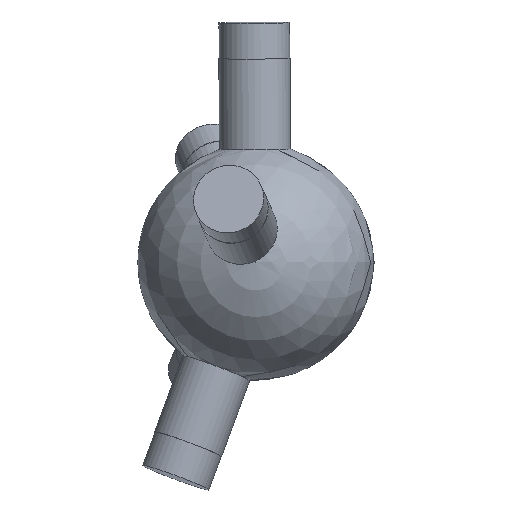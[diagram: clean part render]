
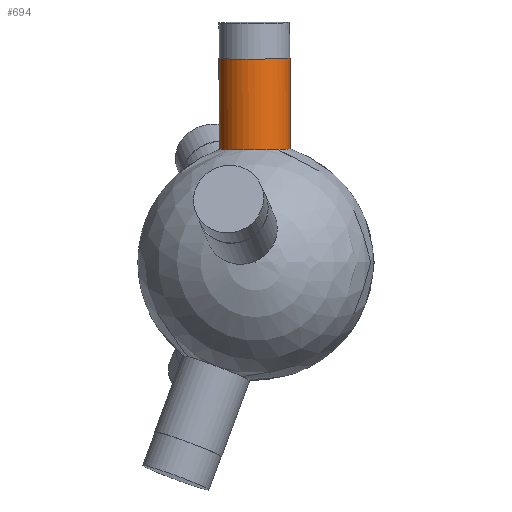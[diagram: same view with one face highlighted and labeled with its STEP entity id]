
A CAD part, top view. The second image highlights one B-rep face of the part: STEP entity #694.
In plain terms, the highlighted cylindrical face has radius 6 mm (diameter 12 mm), a full revolution.
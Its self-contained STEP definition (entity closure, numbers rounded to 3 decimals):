
#35 = SPHERICAL_SURFACE('',#36,20.);
#36 = AXIS2_PLACEMENT_3D('',#37,#38,#39);
#37 = CARTESIAN_POINT('',(0.,0.,0.));
#38 = DIRECTION('',(0.,0.,1.));
#39 = DIRECTION('',(1.,0.,-0.));
#144 = EDGE_CURVE('',#145,#145,#147,.T.);
#145 = VERTEX_POINT('',#146);
#146 = CARTESIAN_POINT('',(-0.111,18.939,
    6.427));
#147 = SURFACE_CURVE('',#148,(#153,#208),.PCURVE_S1.);
#148 = CIRCLE('',#149,6.);
#149 = AXIS2_PLACEMENT_3D('',#150,#151,#152);
#150 = CARTESIAN_POINT('',(-0.111,19.074,
    0.428));
#151 = DIRECTION('',(-0.006,1.,
    0.022));
#152 = DIRECTION('',(0.,-0.022,
    1.));
#153 = PCURVE('',#35,#154);
#154 = DEFINITIONAL_REPRESENTATION('',(#155),#207);
#155 = B_SPLINE_CURVE_WITH_KNOTS('',8,(#156,#157,#158,#159,#160,#161,
    #162,#163,#164,#165,#166,#167,#168,#169,#170,#171,#172,#173,#174,
    #175,#176,#177,#178,#179,#180,#181,#182,#183,#184,#185,#186,#187,
    #188,#189,#190,#191,#192,#193,#194,#195,#196,#197,#198,#199,#200,
    #201,#202,#203,#204,#205,#206),.UNSPECIFIED.,.F.,.F.,(9,7,7,7,7,7,7,
    9),(0.,0.785,1.473,2.675,3.577,
    4.254,5.268,6.283),.UNSPECIFIED.);
#156 = CARTESIAN_POINT('',(1.577,0.327));
#157 = CARTESIAN_POINT('',(1.546,0.327));
#158 = CARTESIAN_POINT('',(1.514,0.324));
#159 = CARTESIAN_POINT('',(1.484,0.317));
#160 = CARTESIAN_POINT('',(1.454,0.306));
#161 = CARTESIAN_POINT('',(1.427,0.293));
#162 = CARTESIAN_POINT('',(1.401,0.276));
#163 = CARTESIAN_POINT('',(1.378,0.257));
#164 = CARTESIAN_POINT('',(1.339,0.217));
#165 = CARTESIAN_POINT('',(1.322,0.196));
#166 = CARTESIAN_POINT('',(1.308,0.174));
#167 = CARTESIAN_POINT('',(1.296,0.151));
#168 = CARTESIAN_POINT('',(1.287,0.127));
#169 = CARTESIAN_POINT('',(1.28,0.102));
#170 = CARTESIAN_POINT('',(1.275,0.077));
#171 = CARTESIAN_POINT('',(1.269,0.006));
#172 = CARTESIAN_POINT('',(1.273,-0.04));
#173 = CARTESIAN_POINT('',(1.283,-0.084));
#174 = CARTESIAN_POINT('',(1.302,-0.127));
#175 = CARTESIAN_POINT('',(1.327,-0.166));
#176 = CARTESIAN_POINT('',(1.359,-0.2));
#177 = CARTESIAN_POINT('',(1.396,-0.228));
#178 = CARTESIAN_POINT('',(1.468,-0.265));
#179 = CARTESIAN_POINT('',(1.501,-0.276));
#180 = CARTESIAN_POINT('',(1.536,-0.284));
#181 = CARTESIAN_POINT('',(1.572,-0.287));
#182 = CARTESIAN_POINT('',(1.608,-0.285));
#183 = CARTESIAN_POINT('',(1.643,-0.279));
#184 = CARTESIAN_POINT('',(1.676,-0.268));
#185 = CARTESIAN_POINT('',(1.731,-0.242));
#186 = CARTESIAN_POINT('',(1.754,-0.229));
#187 = CARTESIAN_POINT('',(1.775,-0.213));
#188 = CARTESIAN_POINT('',(1.794,-0.196));
#189 = CARTESIAN_POINT('',(1.811,-0.177));
#190 = CARTESIAN_POINT('',(1.826,-0.156));
#191 = CARTESIAN_POINT('',(1.84,-0.135));
#192 = CARTESIAN_POINT('',(1.867,-0.077));
#193 = CARTESIAN_POINT('',(1.879,-0.041));
#194 = CARTESIAN_POINT('',(1.885,-0.003));
#195 = CARTESIAN_POINT('',(1.886,0.036));
#196 = CARTESIAN_POINT('',(1.882,0.075));
#197 = CARTESIAN_POINT('',(1.873,0.112));
#198 = CARTESIAN_POINT('',(1.858,0.148));
#199 = CARTESIAN_POINT('',(1.819,0.214));
#200 = CARTESIAN_POINT('',(1.795,0.244));
#201 = CARTESIAN_POINT('',(1.766,0.27));
#202 = CARTESIAN_POINT('',(1.733,0.292));
#203 = CARTESIAN_POINT('',(1.696,0.31));
#204 = CARTESIAN_POINT('',(1.657,0.321));
#205 = CARTESIAN_POINT('',(1.617,0.327));
#206 = CARTESIAN_POINT('',(1.577,0.327));
#207 = ( GEOMETRIC_REPRESENTATION_CONTEXT(2) 
PARAMETRIC_REPRESENTATION_CONTEXT() REPRESENTATION_CONTEXT('2D SPACE',''
  ) );
#208 = PCURVE('',#209,#214);
#209 = CYLINDRICAL_SURFACE('',#210,6.);
#210 = AXIS2_PLACEMENT_3D('',#211,#212,#213);
#211 = CARTESIAN_POINT('',(0.,0.,0.));
#212 = DIRECTION('',(-0.006,1.,
    0.022));
#213 = DIRECTION('',(0.,-0.022,
    1.));
#214 = DEFINITIONAL_REPRESENTATION('',(#215),#219);
#215 = LINE('',#216,#217);
#216 = CARTESIAN_POINT('',(0.,19.079));
#217 = VECTOR('',#218,1.);
#218 = DIRECTION('',(1.,0.));
#219 = ( GEOMETRIC_REPRESENTATION_CONTEXT(2) 
PARAMETRIC_REPRESENTATION_CONTEXT() REPRESENTATION_CONTEXT('2D SPACE',''
  ) );
#694 = ADVANCED_FACE('',(#695),#209,.T.);
#695 = FACE_BOUND('',#696,.T.);
#696 = EDGE_LOOP('',(#697,#720,#747,#748));
#697 = ORIENTED_EDGE('',*,*,#698,.T.);
#698 = EDGE_CURVE('',#145,#699,#701,.T.);
#699 = VERTEX_POINT('',#700);
#700 = CARTESIAN_POINT('',(-0.2,34.217,6.77
    ));
#701 = SEAM_CURVE('',#702,(#706,#713),.PCURVE_S1.);
#702 = LINE('',#703,#704);
#703 = CARTESIAN_POINT('',(0.,-0.135,
    5.998));
#704 = VECTOR('',#705,1.);
#705 = DIRECTION('',(-0.006,1.,
    0.022));
#706 = PCURVE('',#209,#707);
#707 = DEFINITIONAL_REPRESENTATION('',(#708),#712);
#708 = LINE('',#709,#710);
#709 = CARTESIAN_POINT('',(6.283,-0.));
#710 = VECTOR('',#711,1.);
#711 = DIRECTION('',(0.,1.));
#712 = ( GEOMETRIC_REPRESENTATION_CONTEXT(2) 
PARAMETRIC_REPRESENTATION_CONTEXT() REPRESENTATION_CONTEXT('2D SPACE',''
  ) );
#713 = PCURVE('',#209,#714);
#714 = DEFINITIONAL_REPRESENTATION('',(#715),#719);
#715 = LINE('',#716,#717);
#716 = CARTESIAN_POINT('',(0.,-0.));
#717 = VECTOR('',#718,1.);
#718 = DIRECTION('',(0.,1.));
#719 = ( GEOMETRIC_REPRESENTATION_CONTEXT(2) 
PARAMETRIC_REPRESENTATION_CONTEXT() REPRESENTATION_CONTEXT('2D SPACE',''
  ) );
#720 = ORIENTED_EDGE('',*,*,#721,.F.);
#721 = EDGE_CURVE('',#699,#699,#722,.T.);
#722 = SURFACE_CURVE('',#723,(#728,#735),.PCURVE_S1.);
#723 = CIRCLE('',#724,6.);
#724 = AXIS2_PLACEMENT_3D('',#725,#726,#727);
#725 = CARTESIAN_POINT('',(-0.2,34.352,
    0.771));
#726 = DIRECTION('',(-0.006,1.,
    0.022));
#727 = DIRECTION('',(0.,-0.022,
    1.));
#728 = PCURVE('',#209,#729);
#729 = DEFINITIONAL_REPRESENTATION('',(#730),#734);
#730 = LINE('',#731,#732);
#731 = CARTESIAN_POINT('',(0.,34.361));
#732 = VECTOR('',#733,1.);
#733 = DIRECTION('',(1.,0.));
#734 = ( GEOMETRIC_REPRESENTATION_CONTEXT(2) 
PARAMETRIC_REPRESENTATION_CONTEXT() REPRESENTATION_CONTEXT('2D SPACE',''
  ) );
#735 = PCURVE('',#736,#741);
#736 = PLANE('',#737);
#737 = AXIS2_PLACEMENT_3D('',#738,#739,#740);
#738 = CARTESIAN_POINT('',(-0.2,34.352,
    0.771));
#739 = DIRECTION('',(-0.006,1.,
    0.022));
#740 = DIRECTION('',(0.,-0.022,
    1.));
#741 = DEFINITIONAL_REPRESENTATION('',(#742),#746);
#742 = CIRCLE('',#743,6.);
#743 = AXIS2_PLACEMENT_2D('',#744,#745);
#744 = CARTESIAN_POINT('',(0.,0.));
#745 = DIRECTION('',(1.,0.));
#746 = ( GEOMETRIC_REPRESENTATION_CONTEXT(2) 
PARAMETRIC_REPRESENTATION_CONTEXT() REPRESENTATION_CONTEXT('2D SPACE',''
  ) );
#747 = ORIENTED_EDGE('',*,*,#698,.F.);
#748 = ORIENTED_EDGE('',*,*,#144,.T.);
